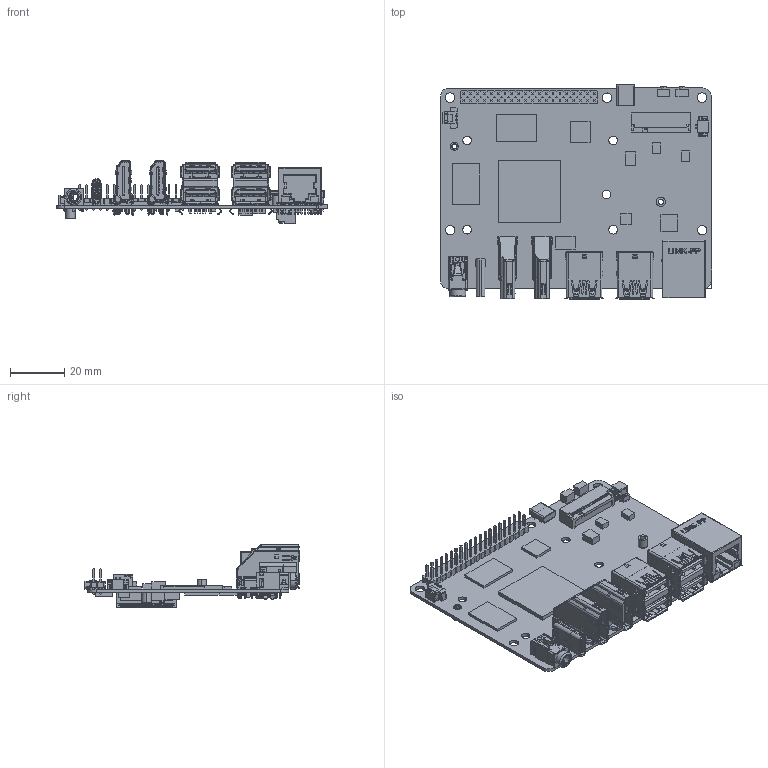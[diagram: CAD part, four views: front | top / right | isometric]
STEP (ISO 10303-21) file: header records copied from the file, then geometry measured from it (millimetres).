
FILE_DESCRIPTION((''),'2;1');
FILE_NAME('00_5B_PCBA_ASM','2023-07-04T10:25:10',('69420'),(''),'CREO PARAMETRIC BY PTC INC, 2023014','CREO PARAMETRIC BY PTC INC, 2023014','');
FILE_SCHEMA(('CONFIG_CONTROL_DESIGN','SHAPE_APPEARANCE_LAYERS_GROUPS'));
Products named in the file (24): 5B_PCB; 5B_PCB_TOP; 5B_PCB_BOT; S40BA_1_2_1_2_1_1; S40BB_ASM_1_ASM_2_ASM_1_ASM_1_ASM; CON75_P0M5_H4M2_KEY-E_ASM_2_ASM_ASM; CON75_P0M5_H4M2_KEY-E_ASM; HDMI_MICO; 000_9_5; WT125AL-024C-0W_3_; LPJG0926HENL; 484060001_2_2_1_1; USB_2X1_H_ASM_2_ASM_1_ASM_1_ASM; USB_2X1_H_ASM; 1816577_2007435-1_2_1_1; HDMI_19P-AF_DIP_ASM_2_ASM_1_ASM_ASM; HDMI_19P-AF_DIP_ASM; TYPE-C-14PIN0001; PJ-322YBC_1_00; S40BA_1_2_1_2_1_1_1; S40BB_ASM_1_ASM_2_ASM_1_ASM_1_1_ASM; CON75_P0M5_H4M2_KEY-E_ASM_2_A_1_ASM; ASM0001_ASM; 00_5B_PCBA_ASM
Assembly tree (26 placements, depth 5):
  00_5B_PCBA_ASM
    5B_PCB
    5B_PCB_TOP
    5B_PCB_BOT
    CON75_P0M5_H4M2_KEY-E_ASM
      CON75_P0M5_H4M2_KEY-E_ASM_2_ASM_ASM
        S40BB_ASM_1_ASM_2_ASM_1_ASM_1_ASM
          S40BA_1_2_1_2_1_1
    HDMI_MICO
    000_9_5
    WT125AL-024C-0W_3_  x2
    LPJG0926HENL
    USB_2X1_H_ASM  x2
      USB_2X1_H_ASM_2_ASM_1_ASM_1_ASM
        484060001_2_2_1_1
    HDMI_19P-AF_DIP_ASM  x2
      HDMI_19P-AF_DIP_ASM_2_ASM_1_ASM_ASM
        1816577_2007435-1_2_1_1
    TYPE-C-14PIN0001
    PJ-322YBC_1_00
    ASM0001_ASM
      CON75_P0M5_H4M2_KEY-E_ASM_2_A_1_ASM
        S40BB_ASM_1_ASM_2_ASM_1_ASM_1_1_ASM
          S40BA_1_2_1_2_1_1_1
Bounding box: 100.19 x 79.12 x 23.19 mm (x, y, z)
Volume: 23049.2 mm3; surface area: 35764.6 mm2
Topology: 21 solids, 27 shells, 7301 faces, 20221 edges, 13085 vertices
Faces by surface type: plane 5361, cylinder 1690, bspline 118, cone 67, sphere 28, extrusion 17, torus 17, revolution 3
Entity records: 194448 total; most frequent: CARTESIAN_POINT 34571, ORIENTED_EDGE 28752, DIRECTION 26539, EDGE_CURVE 14416, VECTOR 11672, LINE 11655, VERTEX_POINT 9319, AXIS2_PLACEMENT_3D 7432
